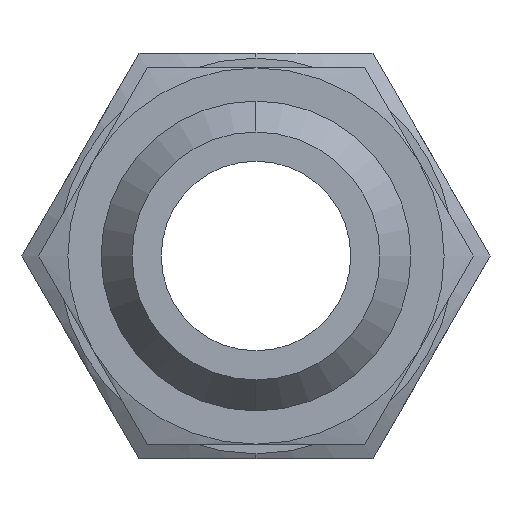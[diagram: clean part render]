
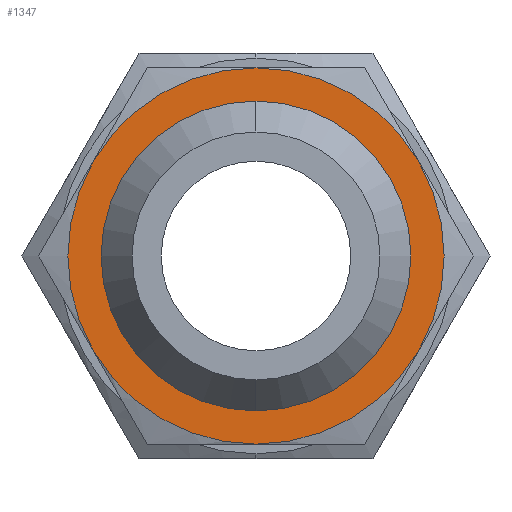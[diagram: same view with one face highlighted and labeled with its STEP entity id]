
A CAD part, left-side view. The second image highlights one B-rep face of the part: STEP entity #1347.
In plain terms, the highlighted planar face has unit normal (-1, 0, 0).
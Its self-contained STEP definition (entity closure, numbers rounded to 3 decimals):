
#1 = CIRCLE ( 'NONE', #7, 10.32 ) ;
#2 = DIRECTION ( 'NONE',  ( 0., 0., 1. ) ) ;
#3 = CARTESIAN_POINT ( 'NONE',  ( 0., 0., 0. ) ) ;
#4 = DIRECTION ( 'NONE',  ( -1., 0., 0. ) ) ;
#5 = AXIS2_PLACEMENT_3D ( 'NONE', #3, #4, #2 ) ;
#6 = CIRCLE ( 'NONE', #5, 10.32 ) ;
#7 = AXIS2_PLACEMENT_3D ( 'NONE', #10, #8, #9 ) ;
#8 = DIRECTION ( 'NONE',  ( 1., 0., 0. ) ) ;
#9 = DIRECTION ( 'NONE',  ( 0., 0., -1. ) ) ;
#10 = CARTESIAN_POINT ( 'NONE',  ( 0., 0., 0. ) ) ;
#24 = DIRECTION ( 'NONE',  ( 0., 0., -1. ) ) ;
#25 = DIRECTION ( 'NONE',  ( 1., 0., 0. ) ) ;
#26 = AXIS2_PLACEMENT_3D ( 'NONE', #30, #25, #24 ) ;
#30 = CARTESIAN_POINT ( 'NONE',  ( 0., 0., 0. ) ) ;
#31 = CIRCLE ( 'NONE', #26, 10.32 ) ;
#61 = DIRECTION ( 'NONE',  ( 1., 0., 0. ) ) ;
#62 = AXIS2_PLACEMENT_3D ( 'NONE', #65, #61, #67 ) ;
#63 = FACE_BOUND ( 'NONE', #1365, .T. ) ;
#65 = CARTESIAN_POINT ( 'NONE',  ( 0., 11.917, 0. ) ) ;
#67 = DIRECTION ( 'NONE',  ( 0., 0., -1. ) ) ;
#69 = DIRECTION ( 'NONE',  ( 0., 0., -1. ) ) ;
#70 = DIRECTION ( 'NONE',  ( 1., 0., 0. ) ) ;
#71 = CARTESIAN_POINT ( 'NONE',  ( 0., 0., 0. ) ) ;
#72 = AXIS2_PLACEMENT_3D ( 'NONE', #71, #70, #69 ) ;
#73 = CIRCLE ( 'NONE', #72, 10.32 ) ;
#85 = DIRECTION ( 'NONE',  ( 0., 0., -1. ) ) ;
#86 = DIRECTION ( 'NONE',  ( 1., 0., 0. ) ) ;
#87 = AXIS2_PLACEMENT_3D ( 'NONE', #94, #86, #85 ) ;
#88 = CIRCLE ( 'NONE', #87, 10.32 ) ;
#90 = DIRECTION ( 'NONE',  ( 0., 0., -1. ) ) ;
#91 = DIRECTION ( 'NONE',  ( 1., 0., 0. ) ) ;
#92 = AXIS2_PLACEMENT_3D ( 'NONE', #100, #91, #90 ) ;
#93 = CIRCLE ( 'NONE', #92, 10.32 ) ;
#94 = CARTESIAN_POINT ( 'NONE',  ( 0., 0., 0. ) ) ;
#95 = DIRECTION ( 'NONE',  ( 0., 0., -1. ) ) ;
#96 = DIRECTION ( 'NONE',  ( -1., 0., 0. ) ) ;
#97 = CARTESIAN_POINT ( 'NONE',  ( 0., 0., 0. ) ) ;
#98 = AXIS2_PLACEMENT_3D ( 'NONE', #97, #96, #95 ) ;
#99 = CIRCLE ( 'NONE', #98, 8.5 ) ;
#100 = CARTESIAN_POINT ( 'NONE',  ( 0., 0., 0. ) ) ;
#113 = CARTESIAN_POINT ( 'NONE',  ( 0., 0., -10.32 ) ) ;
#129 = FACE_OUTER_BOUND ( 'NONE', #1339, .T. ) ;
#130 = PLANE ( 'NONE',  #62 ) ;
#230 = CARTESIAN_POINT ( 'NONE',  ( 0., -8.937, -5.16 ) ) ;
#673 = CARTESIAN_POINT ( 'NONE',  ( 0., 8.937, -5.16 ) ) ;
#963 = CARTESIAN_POINT ( 'NONE',  ( 0., 8.937, 5.16 ) ) ;
#1047 = CARTESIAN_POINT ( 'NONE',  ( 0., 0., 10.32 ) ) ;
#1173 = CARTESIAN_POINT ( 'NONE',  ( 0., 0., 0. ) ) ;
#1174 = CIRCLE ( 'NONE', #1178, 8.5 ) ;
#1175 = CARTESIAN_POINT ( 'NONE',  ( 0., 0., -8.5 ) ) ;
#1176 = DIRECTION ( 'NONE',  ( 0., 0., -1. ) ) ;
#1177 = DIRECTION ( 'NONE',  ( -1., 0., 0. ) ) ;
#1178 = AXIS2_PLACEMENT_3D ( 'NONE', #1173, #1177, #1176 ) ;
#1192 = CARTESIAN_POINT ( 'NONE',  ( 0., 0., 8.5 ) ) ;
#1319 = CARTESIAN_POINT ( 'NONE',  ( 0., -8.937, 5.16 ) ) ;
#1334 = EDGE_CURVE ( 'NONE', #1613, #1388, #31, .T. ) ;
#1335 = ORIENTED_EDGE ( 'NONE', *, *, #1344, .F. ) ;
#1336 = ORIENTED_EDGE ( 'NONE', *, *, #1334, .F. ) ;
#1337 = ORIENTED_EDGE ( 'NONE', *, *, #1579, .F. ) ;
#1338 = ORIENTED_EDGE ( 'NONE', *, *, #1364, .F. ) ;
#1339 = EDGE_LOOP ( 'NONE', ( #1367, #1369, #1336, #1335, #1343, #1340 ) ) ;
#1340 = ORIENTED_EDGE ( 'NONE', *, *, #1377, .F. ) ;
#1342 = EDGE_CURVE ( 'NONE', #1562, #1557, #6, .T. ) ;
#1343 = ORIENTED_EDGE ( 'NONE', *, *, #1342, .T. ) ;
#1344 = EDGE_CURVE ( 'NONE', #1562, #1613, #1, .T. ) ;
#1347 = ADVANCED_FACE ( 'NONE', ( #63, #129 ), #130, .F. ) ;
#1360 = VERTEX_POINT ( 'NONE', #113 ) ;
#1364 = EDGE_CURVE ( 'NONE', #1580, #1577, #99, .T. ) ;
#1365 = EDGE_LOOP ( 'NONE', ( #1338, #1337 ) ) ;
#1367 = ORIENTED_EDGE ( 'NONE', *, *, #1370, .F. ) ;
#1368 = EDGE_CURVE ( 'NONE', #1388, #1360, #93, .T. ) ;
#1369 = ORIENTED_EDGE ( 'NONE', *, *, #1368, .F. ) ;
#1370 = EDGE_CURVE ( 'NONE', #1360, #1510, #88, .T. ) ;
#1377 = EDGE_CURVE ( 'NONE', #1510, #1557, #73, .T. ) ;
#1388 = VERTEX_POINT ( 'NONE', #230 ) ;
#1510 = VERTEX_POINT ( 'NONE', #673 ) ;
#1557 = VERTEX_POINT ( 'NONE', #963 ) ;
#1562 = VERTEX_POINT ( 'NONE', #1047 ) ;
#1577 = VERTEX_POINT ( 'NONE', #1192 ) ;
#1579 = EDGE_CURVE ( 'NONE', #1577, #1580, #1174, .T. ) ;
#1580 = VERTEX_POINT ( 'NONE', #1175 ) ;
#1613 = VERTEX_POINT ( 'NONE', #1319 ) ;
